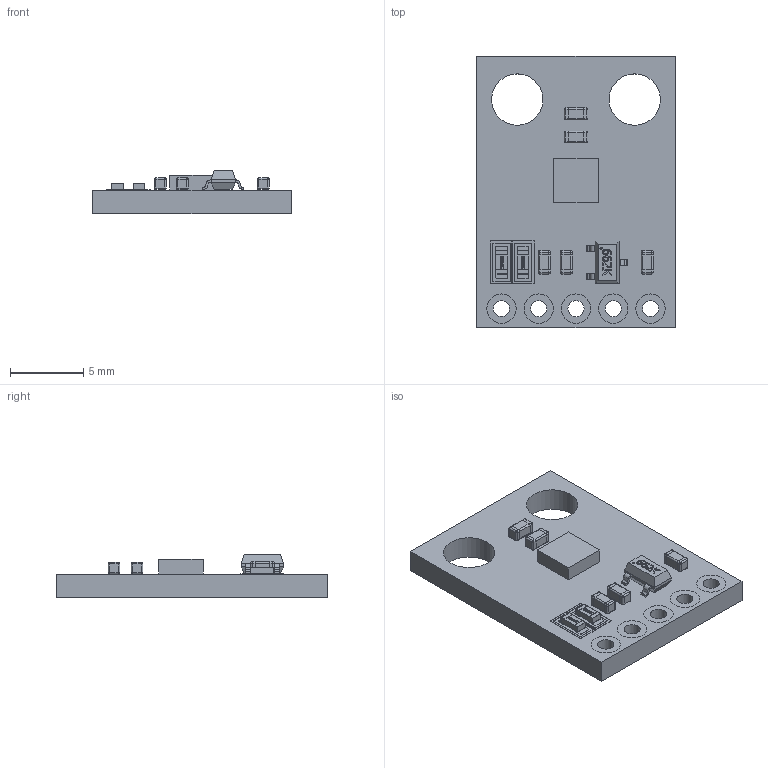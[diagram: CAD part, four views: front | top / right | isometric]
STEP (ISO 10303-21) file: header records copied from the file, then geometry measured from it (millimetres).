
FILE_DESCRIPTION(/* description */ (''),/* implementation_level */ '2;1');
FILE_NAME(/* name */ 'GY-273 v6.step',/* time_stamp */ '2023-11-17T19:44:16+08:00',/* author */ (''),/* organization */ (''),/* preprocessor_version */ 'ST-DEVELOPER v20',/* originating_system */ 'Autodesk Translation Framework v12.14.0.127',/* authorisation */ '');
FILE_SCHEMA (('AUTOMOTIVE_DESIGN { 1 0 10303 214 3 1 1 }'));
Length unit declared in the file: millimetre
Products named in the file (4): GY-273; R0603; 662k - XC6206P182MR-G; 0603
Assembly tree (8 placements, depth 2):
  GY-273
    R0603  x2
    0603  x5
    662k - XC6206P182MR-G
Bounding box: 13.5 x 18.5 x 2.94 mm (x, y, z)
Volume: 381.8 mm3; surface area: 826.4 mm2
Topology: 31 solids, 31 shells, 755 faces, 1759 edges, 1050 vertices
Faces by surface type: plane 314, cylinder 218, bspline 167, sphere 40, torus 16
Full cylindrical faces by diameter (mm): 0.145 x1, 1.1 x5, 2 x10, 3.5 x2
Entity records: 15370 total; most frequent: CARTESIAN_POINT 6225, ORIENTED_EDGE 1906, DIRECTION 1465, EDGE_CURVE 953, VERTEX_POINT 606, LINE 573, VECTOR 573, AXIS2_PLACEMENT_3D 446
